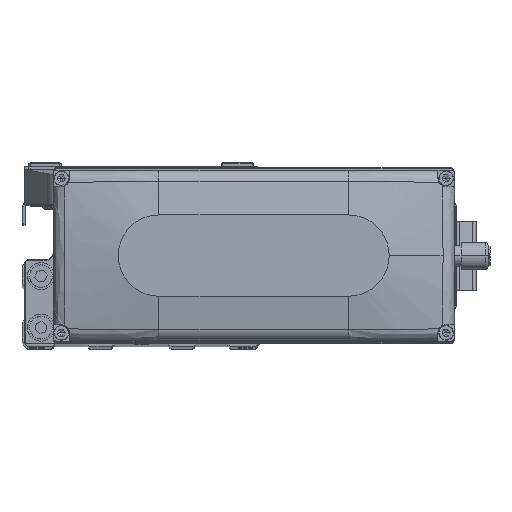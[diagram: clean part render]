
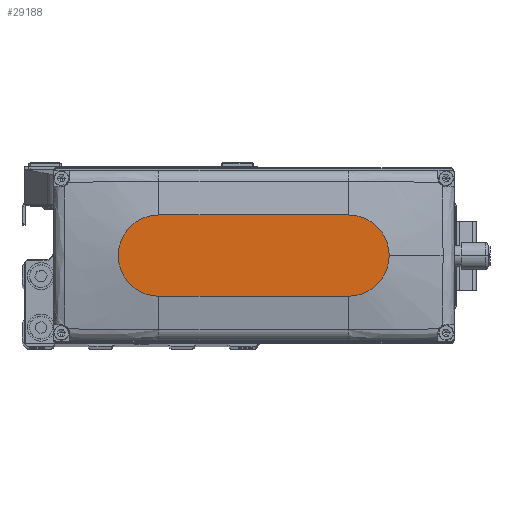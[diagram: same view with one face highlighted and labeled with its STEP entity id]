
A CAD part, top view. The second image highlights one B-rep face of the part: STEP entity #29188.
In plain terms, the highlighted planar face has unit normal (0, 0, 1).
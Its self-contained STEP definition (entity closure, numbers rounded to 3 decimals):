
#252 = ORIENTED_EDGE ( 'NONE', *, *, #19239, .T. ) ;
#975 = CARTESIAN_POINT ( 'NONE',  ( -35., -15., 35. ) ) ;
#1753 = CARTESIAN_POINT ( 'NONE',  ( 35., 0., 35. ) ) ;
#1779 = FACE_OUTER_BOUND ( 'NONE', #20518, .T. ) ;
#2989 = AXIS2_PLACEMENT_3D ( 'NONE', #31401, #46208, #12952 ) ;
#3503 = DIRECTION ( 'NONE',  ( 0., 0., 1. ) ) ;
#4165 = CIRCLE ( 'NONE', #31315, 15. ) ;
#4635 = VERTEX_POINT ( 'NONE', #23318 ) ;
#5805 = EDGE_CURVE ( 'NONE', #34291, #17695, #4165, .T. ) ;
#7269 = DIRECTION ( 'NONE',  ( 1., 0., 0. ) ) ;
#11384 = LINE ( 'NONE', #26192, #15255 ) ;
#12258 = AXIS2_PLACEMENT_3D ( 'NONE', #25740, #40540, #7269 ) ;
#12952 = DIRECTION ( 'NONE',  ( 1., 0., 0. ) ) ;
#13389 = LINE ( 'NONE', #28198, #38675 ) ;
#15255 = VECTOR ( 'NONE', #41012, 1000. ) ;
#16559 = DIRECTION ( 'NONE',  ( 0., 0., 1. ) ) ;
#16589 = PLANE ( 'NONE',  #2989 ) ;
#16719 = EDGE_CURVE ( 'NONE', #27584, #35514, #46176, .T. ) ;
#17695 = VERTEX_POINT ( 'NONE', #975 ) ;
#18061 = EDGE_CURVE ( 'NONE', #17695, #4635, #11384, .T. ) ;
#18324 = DIRECTION ( 'NONE',  ( 1., 0., 0. ) ) ;
#18358 = ORIENTED_EDGE ( 'NONE', *, *, #5805, .T. ) ;
#19239 = EDGE_CURVE ( 'NONE', #4635, #27584, #33179, .T. ) ;
#20518 = EDGE_LOOP ( 'NONE', ( #41902, #18358, #24451, #252, #36799 ) ) ;
#23318 = CARTESIAN_POINT ( 'NONE',  ( 35., -15., 35. ) ) ;
#23993 = EDGE_CURVE ( 'NONE', #35514, #34291, #13389, .T. ) ;
#24451 = ORIENTED_EDGE ( 'NONE', *, *, #18061, .T. ) ;
#25255 = AXIS2_PLACEMENT_3D ( 'NONE', #1753, #16559, #31372 ) ;
#25740 = CARTESIAN_POINT ( 'NONE',  ( 35., 0., 35. ) ) ;
#26192 = CARTESIAN_POINT ( 'NONE',  ( -35., -15., 35. ) ) ;
#27584 = VERTEX_POINT ( 'NONE', #36043 ) ;
#28198 = CARTESIAN_POINT ( 'NONE',  ( -35., 15., 35. ) ) ;
#29188 = ADVANCED_FACE ( 'NONE', ( #1779 ), #16589, .T. ) ;
#31315 = AXIS2_PLACEMENT_3D ( 'NONE', #36769, #3503, #18324 ) ;
#31372 = DIRECTION ( 'NONE',  ( 1., 0., 0. ) ) ;
#31401 = CARTESIAN_POINT ( 'NONE',  ( 0., 0., 35. ) ) ;
#33179 = CIRCLE ( 'NONE', #12258, 15. ) ;
#34291 = VERTEX_POINT ( 'NONE', #42513 ) ;
#35514 = VERTEX_POINT ( 'NONE', #42278 ) ;
#36043 = CARTESIAN_POINT ( 'NONE',  ( 50., 0., 35. ) ) ;
#36769 = CARTESIAN_POINT ( 'NONE',  ( -35., 0., 35. ) ) ;
#36799 = ORIENTED_EDGE ( 'NONE', *, *, #16719, .T. ) ;
#38675 = VECTOR ( 'NONE', #42999, 1000. ) ;
#40540 = DIRECTION ( 'NONE',  ( 0., 0., 1. ) ) ;
#41012 = DIRECTION ( 'NONE',  ( 1., 0., 0. ) ) ;
#41902 = ORIENTED_EDGE ( 'NONE', *, *, #23993, .T. ) ;
#42278 = CARTESIAN_POINT ( 'NONE',  ( 35., 15., 35. ) ) ;
#42513 = CARTESIAN_POINT ( 'NONE',  ( -35., 15., 35. ) ) ;
#42999 = DIRECTION ( 'NONE',  ( -1., 0., 0. ) ) ;
#46176 = CIRCLE ( 'NONE', #25255, 15. ) ;
#46208 = DIRECTION ( 'NONE',  ( 0., 0., 1. ) ) ;
